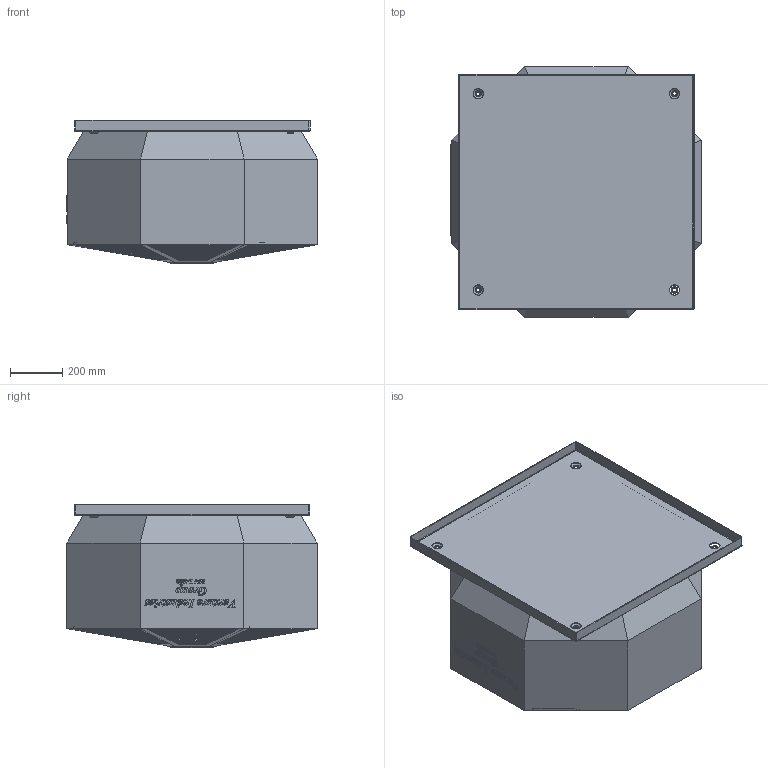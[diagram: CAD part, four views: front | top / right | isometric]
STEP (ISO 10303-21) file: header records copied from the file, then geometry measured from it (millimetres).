
FILE_DESCRIPTION(/* description */ (''),/* implementation_level */ '2;1');
FILE_NAME(/* name */ 'D:\Piotr - Dokumenty\Modele uproszczone\RFV\RFV X-560\komplet\RFV_X_560_X.stp',/* time_stamp */ '2021-03-16T13:42:51+01:00',/* author */ ('Piotr.Nowotniak'),/* organization */ (''),/* preprocessor_version */ 'ST-DEVELOPER v18',/* originating_system */ 'Autodesk Inventor 2020',/* authorisation */ '');
FILE_SCHEMA (('AUTOMOTIVE_DESIGN { 1 0 10303 214 3 1 1 }'));
Products named in the file (1): RFV_X_560_X
Bounding box: 959 x 956 x 548 mm (x, y, z)
Volume: 337803882.3 mm3; surface area: 4715018.2 mm2
Topology: 1 solids, 1 shells, 3466 faces, 8584 edges, 5724 vertices
Faces by surface type: plane 1965, cylinder 1120, bspline 353, torus 16, cone 8, sphere 4
Full cylindrical faces by diameter (mm): 14 x4
Entity records: 108286 total; most frequent: CARTESIAN_POINT 22718, ORIENTED_EDGE 17168, DIRECTION 16450, EDGE_CURVE 8584, VERTEX_POINT 5724, LINE 5534, VECTOR 5534, AXIS2_PLACEMENT_3D 5458
